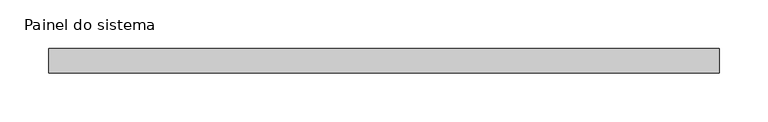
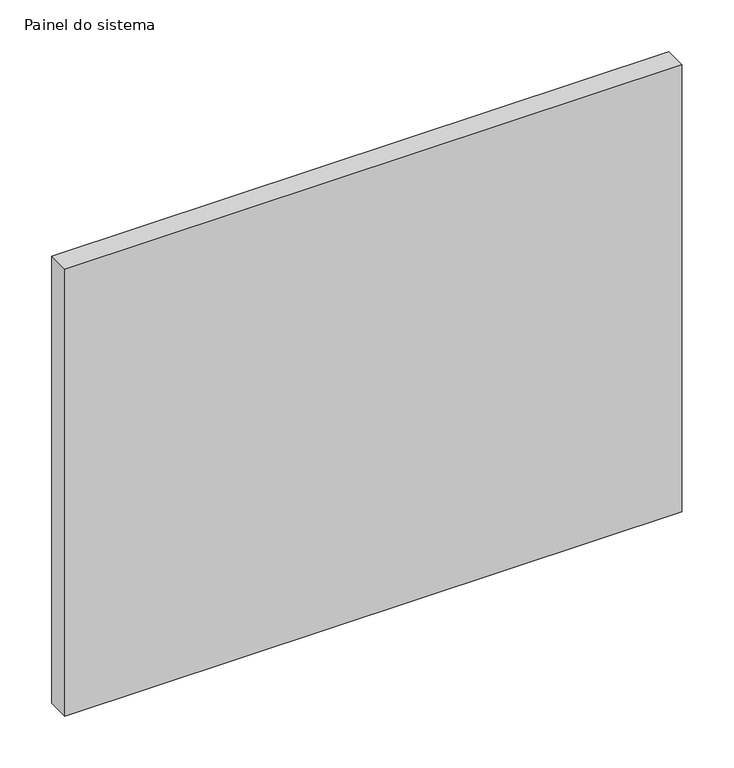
"""IFC4 building model written with IfcOpenShell, lengths in millimetres: plate geometry, Painel do sistema : Envidraçado."""

from ifc_helpers import new_model, si_unit, origin, origin_with_axes, place, context, project, spatial, polyline, outline, extrude, source, transform, mapped, element, save


def painel_do_sistema_f28f3b37(model_context):
    return source(origin(), model_context, "Body", "SweptSolid", [
        extrude(outline(polyline([(342.525, 24.5), (-342.525, 24.5), (-342.525, 49.5), (342.525, 49.5), (342.525, 24.5)])), origin_with_axes(), (0.0, 0.0, 1.0), 525.0),
    ])


if __name__ == "__main__":
    model = new_model("IFC4")
    model_context = context("Model", 3, world=origin())
    ifc_project = project(units=[si_unit("LENGTHUNIT", "METRE", prefix="MILLI")], contexts=[model_context])
    site = spatial("IfcSite", under=ifc_project)
    building = spatial("IfcBuilding", under=site)
    placement = place(None, origin())
    painel_do_sistema_shape = painel_do_sistema_f28f3b37(model_context)
    element("IfcPlate", 1, ObjectType="Painel do sistema : Envidraçado", at=placement, inside=building, context=model_context, shape_type="MappedRepresentation", body=[
        mapped(painel_do_sistema_shape, transform((0.0, 0.0, 0.0), x_axis=(1.0, 0.0, 0.0), y_axis=(0.0, 1.0, 0.0), z_axis=(0.0, 0.0, 1.0))),
    ])
    save(model, "model.ifc")
